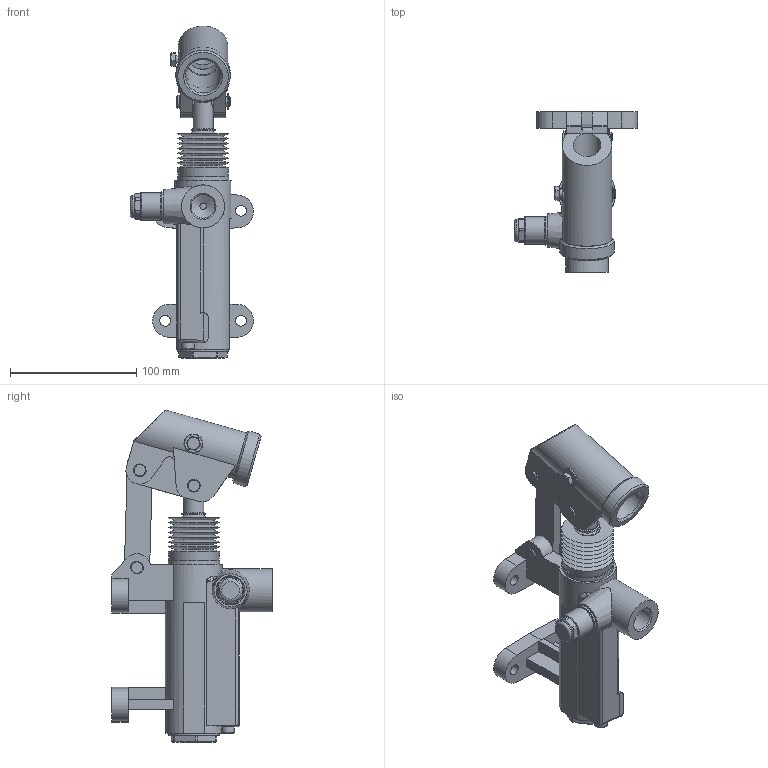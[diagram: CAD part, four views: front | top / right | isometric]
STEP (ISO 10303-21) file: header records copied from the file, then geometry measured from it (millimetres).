
FILE_DESCRIPTION(/* description */ ('Unknown'),/* implementation_level */ '2;1');
FILE_NAME(/* name */ 'HP50EVS',/* time_stamp */ '2024-11-27T14:48:58+01:00',/* author */ ('Unknown'),/* organization */ ('Unknown'),/* preprocessor_version */ 'ST-DEVELOPER v19.4',/* originating_system */ 'Solid Edge',/* authorisation */ 'Unknown');
FILE_SCHEMA (('AUTOMOTIVE_DESIGN {1 0 10303 214 3 1 1}'));
Length unit declared in the file: millimetre
Products named in the file (1): HP50EVS
Bounding box: 97.4 x 126.87 x 262.53 mm (x, y, z)
Volume: 114892.8 mm3; surface area: 135051.4 mm2
Topology: 7 solids, 8 shells, 481 faces, 1227 edges, 789 vertices
Faces by surface type: plane 224, cylinder 173, cone 52, torus 15, bspline 13, sphere 4
Full cylindrical faces by diameter (mm): 1.698 x2, 4.912 x1, 4.995 x2, 5.095 x5, 5.994 x6, 7.592 x1, 7.792 x6, 7.992 x4, 8.092 x7, 8.392 x1, 8.591 x4, 9.99 x5, 10.366 x1, 10.489 x1, 10.989 x1, 14.935 x1, 14.985 x1, 15.185 x1, 15.784 x1, 15.984 x1, 16.983 x2, 17.782 x1, 17.982 x1, 18.612 x3, 18.981 x1, 19.98 x1, 21.978 x3, 22.977 x1, 25.974 x1, 27.473 x2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
Entity records: 18038 total; most frequent: CARTESIAN_POINT 4799, DIRECTION 2310, ORIENTED_EDGE 1972, EDGE_CURVE 986, AXIS2_PLACEMENT_3D 922, FACE_BOUND 715, EDGE_LOOP 711, VERTEX_POINT 707
